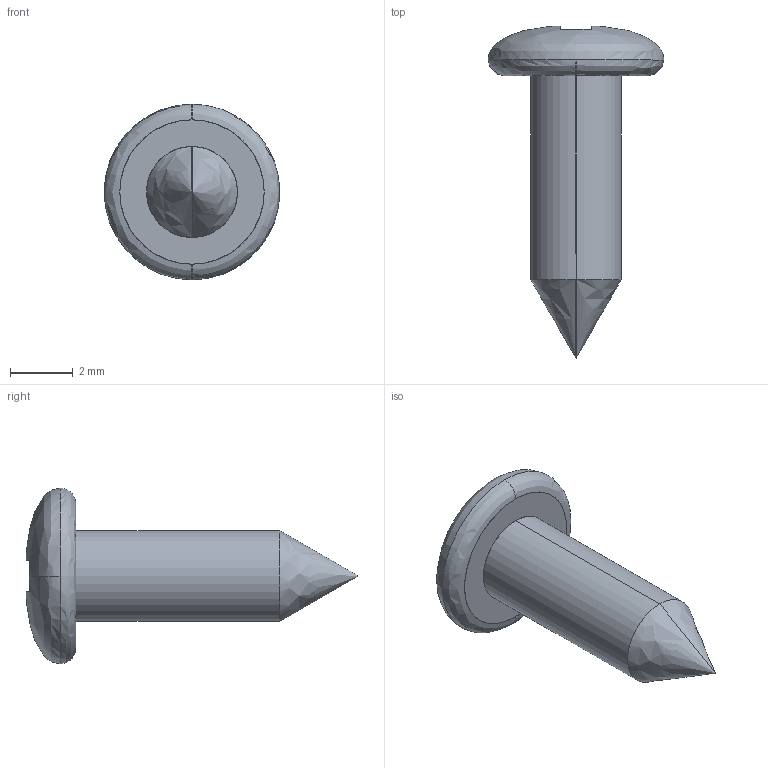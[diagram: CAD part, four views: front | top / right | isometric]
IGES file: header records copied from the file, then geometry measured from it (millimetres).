
Start section: SolidWorks IGES file using analytic representation for surfaces
Global section: file name: C:\Users\AndreBernot\Downloads\K-RACER-L_3D_SW\K-RACER-L_3D_SW\VIs TC 3 x 9.IGS; native system: SolidWorks 2015; preprocessor: SolidWorks 2015; author: AndreBernot; date: 170922.151823; units: millimetre
Bounding box: 5.6 x 10.59 x 5.6 mm (x, y, z)
Surface area: 136.9 mm2 (no closed solid volume)
Topology: 0 solids, 0 shells, 23 faces, 198 edges, 198 vertices
Faces by surface type: bspline 19, revolution 4
